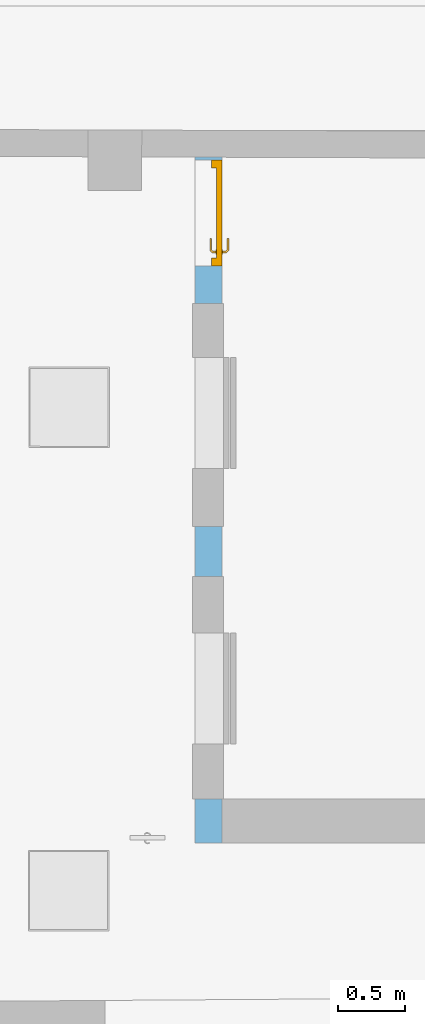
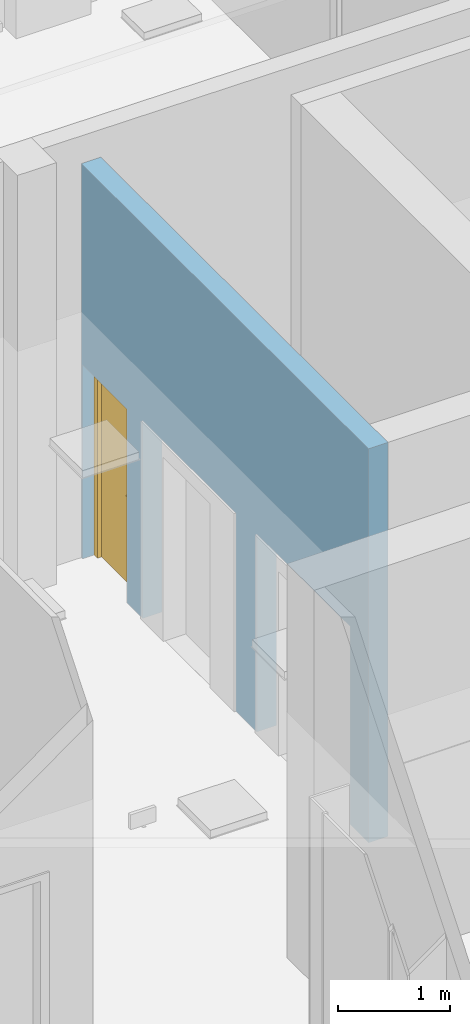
# One storey, part 45 of 128: 1 door, 3 openings, plus 1 element that does not belong to this part.
"""IFC2X3 building model written with IfcOpenShell, lengths in metres."""

from ifc_helpers import new_model, entity, si_unit, converted_unit, derived_unit, direction, frame, frame_2d, origin, origin_2d_with_axis, place, context, subcontext, project, spatial, polyline, rectangle, outline, extrude, faceted_brep, source, transform, mapped, material, layer, layer_set, layer_usage, type_object, type_shapes, element, fill, save


model = new_model("IFC2X3")

# Units and contexts
model_context = context("Model", 3, precision=1e-05, world=origin(), true_north=direction((6.123031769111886e-17, 1.0)))
body_context = subcontext(model_context, "Body", "Model", "MODEL_VIEW")
ifc_project = project(units=[si_unit("LENGTHUNIT", "METRE"), si_unit("AREAUNIT", "SQUARE_METRE"), converted_unit("PLANEANGLEUNIT", "DEGREE", entity("IfcPlaneAngleMeasure", 0.017453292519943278), si_unit("PLANEANGLEUNIT", "RADIAN"), dimensions=[0, 0, 0, 0, 0, 0, 0]), derived_unit("THERMALTRANSMITTANCEUNIT", [(si_unit("MASSUNIT", "GRAM", prefix="KILO"), 1), (si_unit("THERMODYNAMICTEMPERATUREUNIT", "KELVIN"), -1), (si_unit("TIMEUNIT", "SECOND"), -3)])], contexts=[model_context])

# Site, building, storey
site_placement = place(None, origin())
site = spatial("IfcSite", under=ifc_project, at=site_placement, Name="Default", CompositionType="ELEMENT")
building_placement = place(site_placement, origin())
building = spatial("IfcBuilding", under=site, at=building_placement, CompositionType="ELEMENT")
storey_placement = place(building_placement, origin())
storey = spatial("IfcBuildingStorey", under=building, at=storey_placement, Name="00_RDC CAF", CompositionType="ELEMENT", Elevation=2.4982504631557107e-13)

# Wall, openings, door
ifc_material_1 = material(Name="STR - Beton Mur")
ifc_layer = layer(ifc_material_1, 0.2)
ifc_layer_set = layer_set([ifc_layer], Name="Mur de base:M_Int_Beton_200mm")
ifc_layer_usage = layer_usage(ifc_layer_set, "AXIS2", "POSITIVE", -0.1)
wall_type = type_object("IfcWallType", Name="Mur de base:M_Int_Beton_200mm", PredefinedType="STANDARD", material=ifc_layer_set)
wall_placement = place(storey_placement, frame((28.445744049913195, 136.66346199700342, 0.0), z_axis=(0.0, 0.0, 1.0), x_axis=(0.0, -1.0, 0.0)))
wall = element("IfcWallStandardCase", 1, at=wall_placement, inside=storey, type_object=wall_type, material=ifc_layer_usage, Name="Mur de base:M_Int_Beton_200mm", ObjectType="Mur de base:M_Int_Beton_200mm", context=body_context, shape_type="SweptSolid", body=[
    extrude(outline(polyline([(0.0, -0.09999999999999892), (5.107940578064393, -0.09999999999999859), (5.107940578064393, 0.09999999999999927), (4.782940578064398, 0.09999999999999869), (0.0006955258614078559, 0.09999999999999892), (0.0, -0.09999999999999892)])), origin(), (0.0, 0.0, 1.0), 4.278),
])
opening_1_placement = place(wall_placement, frame((136.66346199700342, -28.445744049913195, 0.0), z_axis=(0.0, 0.0, 1.0), x_axis=(0.0, 1.0, 0.0)))
element("IfcOpeningElement", 2, at=opening_1_placement, cuts=wall, Name="Mur de base:M_Int_Beton_200mm", ObjectType="Opening", context=body_context, shape_type="SweptSolid", body=[
    extrude(rectangle(XDim=2.1600000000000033, YDim=1.660000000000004, at=origin_2d_with_axis()), frame((28.345744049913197, 134.7427850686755, 1.0699999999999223), z_axis=(1.0, 0.0, 0.0), x_axis=(0.0, 0.0, -1.0)), (0.0, 0.0, 1.0), 0.19999999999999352),
])
opening_2_placement = place(wall_placement, frame((136.66346199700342, -28.445744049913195, 0.0), z_axis=(0.0, 0.0, 1.0), x_axis=(0.0, 1.0, 0.0)))
element("IfcOpeningElement", 3, at=opening_2_placement, cuts=wall, Name="Mur de base:M_Int_Beton_200mm", ObjectType="Opening", context=body_context, shape_type="SweptSolid", body=[
    extrude(rectangle(XDim=2.1600000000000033, YDim=1.6600000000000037, at=frame_2d((0.0, -1.73749903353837e-14), x_axis=(1.0, 0.0))), frame((28.345744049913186, 132.7105214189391, 1.0699999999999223), z_axis=(1.0, 0.0, 0.0), x_axis=(0.0, 0.0, -1.0)), (0.0, 0.0, 1.0), 0.19999999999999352),
])
opening_3_placement = place(wall_placement, frame((0.021356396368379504, -0.10000000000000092, 0.0)))
opening_3 = element("IfcOpeningElement", 4, at=opening_3_placement, cuts=wall, Name="P_Tunnel_Simple:P_Int_Simple_Pleine_700x2060mm:1", ObjectType="Opening", context=body_context, shape_type="SweptSolid", body=[
    extrude(rectangle(XDim=2.104999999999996, YDim=0.7900000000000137, at=frame_2d((1.052499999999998, 0.39500000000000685), x_axis=(1.0, 0.0))), frame((0.0, 0.0, 0.0), z_axis=(0.0, 1.0, 0.0), x_axis=(0.0, 0.0, 1.0)), (0.0, 0.0, 1.0), 0.2),
])
ifc_material_2 = material(Name="ARC - M.In - Blanc")
door_style = type_object("IfcDoorStyle", Name="P_Tunnel_Simple:P_Int_Simple_Pleine_700x2060mm", ConstructionType="NOTDEFINED", OperationType="NOTDEFINED", ParameterTakesPrecedence=False, Sizeable=False, material=ifc_material_2)
shared_shape = source(origin(), body_context, "Body", "Brep", [
    faceted_brep([(1.1029747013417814, 0.04500000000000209, 1.0077804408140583), (1.0990000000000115, 0.045000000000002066, 1.0069999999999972), (1.0990000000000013, 0.045000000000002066, 0.9929999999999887), (1.1029747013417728, 0.04500000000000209, 0.9922195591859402), (1.107025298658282, 0.045000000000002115, 0.9922195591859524), (1.1110000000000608, 0.045000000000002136, 0.9930000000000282), (1.1110000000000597, 0.045000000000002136, 1.006999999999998), (1.1070252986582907, 0.045000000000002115, 1.0077804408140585), (1.1110000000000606, 0.06748520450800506, 0.9930000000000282), (1.1110000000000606, 0.06748520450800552, 1.006999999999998), (1.107025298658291, 0.06913157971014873, 1.0077804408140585), (1.1208389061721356, 0.08294518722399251, 1.0077804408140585), (1.1191610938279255, 0.08699578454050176, 1.0077804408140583), (1.1029747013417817, 0.070809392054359, 1.0077804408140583), (1.0990000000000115, 0.07245576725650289, 1.0069999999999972), (1.099000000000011, 0.07245576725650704, 0.9929999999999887), (1.1029747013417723, 0.07080939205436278, 0.9922195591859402), (1.1191610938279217, 0.08699578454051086, 0.9922195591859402), (1.1208389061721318, 0.08294518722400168, 0.9922195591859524), (1.1070252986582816, 0.06913157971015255, 0.9922195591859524), (1.1224852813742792, 0.07897048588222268, 0.9930000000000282), (1.1224852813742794, 0.07897048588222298, 1.006999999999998), (1.1175147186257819, 0.090970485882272, 1.0069999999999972), (1.1175147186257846, 0.09097048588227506, 0.9929999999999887), (1.2050457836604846, 0.07897048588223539, 0.9930000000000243), (1.2050457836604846, 0.08294518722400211, 0.9922195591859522), (1.2050457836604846, 0.0869957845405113, 0.99221955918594), (1.2050457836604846, 0.09097048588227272, 0.9929999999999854), (1.2050457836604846, 0.09097048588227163, 1.0069999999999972), (1.2050457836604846, 0.08699578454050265, 1.007780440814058), (1.2050457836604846, 0.08294518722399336, 1.0077804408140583), (1.2050457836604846, 0.07897048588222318, 1.0069999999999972), (1.1637655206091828, 0.0789704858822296, 0.9930000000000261), (1.1637655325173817, 0.07897048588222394, 1.0069999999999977), (1.162942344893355, 0.08497048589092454, 1.0078786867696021), (1.1574452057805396, 0.09097048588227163, 1.0069999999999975), (1.15744520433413, 0.09097048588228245, 0.9929999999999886), (1.1629423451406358, 0.08497048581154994, 0.9921213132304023)], [[[0, 1, 2, 3, 4, 5, 6, 7]], [[6, 5, 8, 9]], [[9, 10, 7, 6]], [[10, 11, 12, 13, 0, 7]], [[13, 14, 1, 0]], [[2, 1, 14, 15]], [[15, 16, 3, 2]], [[16, 17, 18, 19, 4, 3]], [[19, 8, 5, 4]], [[9, 8, 20, 21]], [[21, 11, 10, 9]], [[12, 22, 14, 13]], [[15, 14, 22, 23]], [[23, 17, 16, 15]], [[18, 20, 8, 19]], [[24, 25, 26, 27, 28, 29, 30, 31]], [[21, 20, 32, 24, 31, 33]], [[33, 30, 34]], [[35, 34, 29]], [[21, 33, 11]], [[33, 31, 30]], [[28, 35, 29]], [[22, 12, 35]], [[35, 12, 34]], [[12, 11, 34]], [[11, 33, 34]], [[29, 34, 30]], [[22, 35, 28, 27, 36, 23]], [[36, 26, 37]], [[27, 26, 36]], [[17, 23, 36]], [[37, 32, 18]], [[20, 18, 32]], [[32, 25, 24]], [[26, 25, 37]], [[25, 32, 37]], [[17, 36, 37]], [[17, 37, 18]]]),
    faceted_brep([(1.1029747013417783, -0.004999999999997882, 1.0077804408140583), (1.1070252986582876, -0.0049999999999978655, 1.0077804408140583), (1.111000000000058, -0.004999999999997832, 1.006999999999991), (1.111000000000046, -0.004999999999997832, 0.9930000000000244), (1.1070252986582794, -0.0049999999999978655, 0.9922195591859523), (1.1029747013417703, -0.004999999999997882, 0.9922195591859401), (1.0990000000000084, -0.004999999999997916, 0.9929999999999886), (1.0990000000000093, -0.004999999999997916, 1.0069999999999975), (1.0990000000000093, -0.03265095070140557, 1.0069999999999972), (1.1029747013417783, -0.031004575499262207, 1.0077804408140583), (1.1190235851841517, -0.04705345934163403, 1.0077804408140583), (1.1207013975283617, -0.04300286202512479, 1.0077804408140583), (1.1070252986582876, -0.029326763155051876, 1.0077804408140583), (1.11100000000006, -0.027680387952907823, 1.0069999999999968), (1.1110000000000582, -0.027680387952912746, 0.9930000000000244), (1.1070252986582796, -0.02932676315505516, 0.9922195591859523), (1.1207013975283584, -0.043002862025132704, 0.9922195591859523), (1.1190235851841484, -0.04705345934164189, 0.9922195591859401), (1.1029747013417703, -0.031004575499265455, 0.9922195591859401), (1.0990000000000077, -0.03265095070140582, 0.9929999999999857), (1.1173772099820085, -0.051028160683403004, 1.0069999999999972), (1.122347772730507, -0.039028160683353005, 1.0069999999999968), (1.122347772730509, -0.03902816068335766, 0.9930000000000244), (1.1173772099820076, -0.05102816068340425, 0.9929999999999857), (1.2050186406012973, -0.05102816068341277, 0.9929999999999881), (1.2050186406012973, -0.04705345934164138, 0.9922195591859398), (1.2050186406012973, -0.0430028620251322, 0.992219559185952), (1.2050186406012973, -0.039028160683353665, 0.9930000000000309), (1.2050186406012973, -0.03902816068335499, 1.0069999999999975), (1.2050186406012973, -0.043002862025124, 1.007780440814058), (1.2050186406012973, -0.047053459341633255, 1.0077804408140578), (1.2050186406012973, -0.051028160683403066, 1.0069999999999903), (1.1573076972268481, -0.051028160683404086, 1.0069999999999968), (1.1628600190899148, -0.045028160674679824, 1.007878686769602), (1.163683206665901, -0.0390281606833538, 1.0069999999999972), (1.1636832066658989, -0.039028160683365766, 0.9930000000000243), (1.1628600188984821, -0.045028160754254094, 0.9921213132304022), (1.1573077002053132, -0.05102816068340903, 0.992999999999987)], [[[0, 1, 2, 3, 4, 5, 6, 7]], [[8, 9, 0, 7]], [[9, 10, 11, 12, 1, 0]], [[12, 13, 2, 1]], [[3, 2, 13, 14]], [[14, 15, 4, 3]], [[15, 16, 17, 18, 5, 4]], [[18, 19, 6, 5]], [[7, 6, 19, 8]], [[20, 10, 9, 8]], [[11, 21, 13, 12]], [[14, 13, 21, 22]], [[22, 16, 15, 14]], [[17, 23, 19, 18]], [[8, 19, 23, 20]], [[24, 25, 26, 27, 28, 29, 30, 31]], [[32, 30, 33]], [[31, 30, 32]], [[10, 20, 32]], [[33, 34, 11]], [[21, 11, 34]], [[34, 29, 28]], [[30, 29, 33]], [[29, 34, 33]], [[10, 32, 33]], [[10, 33, 11]], [[22, 21, 34, 28, 27, 35]], [[35, 26, 36]], [[37, 36, 25]], [[22, 35, 16]], [[35, 27, 26]], [[24, 37, 25]], [[23, 17, 37]], [[37, 17, 36]], [[17, 16, 36]], [[16, 35, 36]], [[25, 36, 26]], [[20, 23, 37, 24, 31, 32]]]),
    faceted_brep([(1.115352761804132, 0.04000000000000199, 0.866003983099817), (1.1250000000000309, 0.04000000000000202, 0.8700000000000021), (1.1250000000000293, 0.04000000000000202, 1.0800000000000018), (1.1153527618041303, 0.04000000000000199, 1.083996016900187), (1.1050000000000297, 0.040000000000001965, 1.0853589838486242), (1.094647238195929, 0.04000000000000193, 1.0839960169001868), (1.08500000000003, 0.040000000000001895, 1.0800000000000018), (1.0850000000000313, 0.040000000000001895, 0.8700000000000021), (1.0946472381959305, 0.04000000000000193, 0.8660039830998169), (1.105000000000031, 0.040000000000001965, 0.8646410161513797), (1.1153527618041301, 0.045000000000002, 1.083996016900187), (1.1250000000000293, 0.04500000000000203, 1.0800000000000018), (1.1250000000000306, 0.04500000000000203, 0.8700000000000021), (1.115352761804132, 0.045000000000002, 0.866003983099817), (1.105000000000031, 0.04500000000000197, 0.8646410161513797), (1.0946472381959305, 0.045000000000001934, 0.8660039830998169), (1.0850000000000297, 0.0450000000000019, 0.870000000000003), (1.08500000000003, 0.0450000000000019, 1.0800000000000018), (1.094647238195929, 0.045000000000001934, 1.0839960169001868), (1.1050000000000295, 0.04500000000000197, 1.0853589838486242)], [[[0, 1, 2, 3, 4, 5, 6, 7, 8, 9]], [[10, 11, 12, 13, 14, 15, 16, 17, 18, 19]], [[11, 10, 3, 2]], [[3, 10, 19, 4]], [[19, 18, 5, 4]], [[18, 17, 6, 5]], [[7, 6, 17, 16]], [[16, 15, 8, 7]], [[8, 15, 14, 9]], [[14, 13, 0, 9]], [[13, 12, 1, 0]], [[2, 1, 12, 11]]]),
    faceted_brep([(1.115352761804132, -0.004999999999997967, 0.866003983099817), (1.1250000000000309, -0.00499999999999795, 0.8700000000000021), (1.1250000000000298, -0.00499999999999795, 1.0800000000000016), (1.1153527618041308, -0.004999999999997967, 1.0839960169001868), (1.1050000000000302, -0.004999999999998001, 1.0853589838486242), (1.0946472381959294, -0.004999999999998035, 1.083996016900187), (1.0850000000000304, -0.0049999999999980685, 1.0800000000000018), (1.0850000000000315, -0.0049999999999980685, 0.8700000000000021), (1.0946472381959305, -0.004999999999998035, 0.866003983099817), (1.105000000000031, -0.004999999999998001, 0.8646410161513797), (1.1153527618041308, 0.0, 1.0839960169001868), (1.1250000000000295, 0.0, 1.0800000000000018), (1.1250000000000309, 0.0, 0.8700000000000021), (1.115352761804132, 0.0, 0.866003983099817), (1.105000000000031, 0.0, 0.8646410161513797), (1.0946472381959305, 0.0, 0.866003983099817), (1.08500000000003, 0.0, 0.8700000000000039), (1.0850000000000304, 0.0, 1.0800000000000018), (1.0946472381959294, 0.0, 1.083996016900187), (1.1050000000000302, 0.0, 1.0853589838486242)], [[[0, 1, 2, 3, 4, 5, 6, 7, 8, 9]], [[10, 11, 12, 13, 14, 15, 16, 17, 18, 19]], [[16, 15, 8, 7]], [[8, 15, 14, 9]], [[14, 13, 0, 9]], [[13, 12, 1, 0]], [[2, 1, 12, 11]], [[11, 10, 3, 2]], [[3, 10, 19, 4]], [[19, 18, 5, 4]], [[18, 17, 6, 5]], [[7, 6, 17, 16]]]),
    faceted_brep([(1.0450000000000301, 0.04000000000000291, 2.06), (1.7450000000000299, 0.04000000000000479, 2.06), (1.7450000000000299, 0.04000000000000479, 0.0), (1.0450000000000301, 0.04000000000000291, 0.0), (1.7450000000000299, 0.0, 2.06), (1.7450000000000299, 0.0, 0.0), (1.0450000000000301, 0.0, 0.0), (1.0450000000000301, 0.0, 2.06)], [[[0, 1, 2, 3]], [[2, 1, 4, 5]], [[3, 2, 5, 6]], [[0, 3, 6, 7]], [[7, 6, 5, 4]], [[1, 0, 7, 4]]]),
    faceted_brep([(1.7900000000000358, 0.0800000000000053, 0.0), (1.790000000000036, 0.0, 0.0), (1.7450000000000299, 0.0, 0.0), (1.7450000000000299, 0.040000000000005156, 0.0), (1.7300000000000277, 0.04000000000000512, 0.0), (1.7300000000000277, 0.0800000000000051, 0.0), (1.7300000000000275, 0.0800000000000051, 2.044999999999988), (1.06000000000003, 0.08000000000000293, 2.044999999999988), (1.06000000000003, 0.08000000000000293, 0.0), (1.0, 0.08000000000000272, 0.0), (1.0, 0.08000000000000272, 2.104999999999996), (1.7900000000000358, 0.0800000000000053, 2.104999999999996), (1.730000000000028, 0.040000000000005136, 2.044999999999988), (1.7450000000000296, 0.040000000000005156, 2.05999999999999), (1.0450000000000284, 0.04000000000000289, 2.05999999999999), (1.0450000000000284, 0.04000000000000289, 0.0), (1.0600000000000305, 0.04000000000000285, 0.0), (1.0600000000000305, 0.04000000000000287, 2.044999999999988), (1.7450000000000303, 0.0, 2.05999999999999), (1.790000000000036, 0.0, 2.104999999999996), (1.0, 0.0, 2.104999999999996), (1.0, 0.0, 0.0), (1.0450000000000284, 0.0, 0.0), (1.0450000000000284, 0.0, 2.05999999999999)], [[[0, 1, 2, 3, 4, 5]], [[5, 6, 7, 8, 9, 10, 11, 0]], [[4, 12, 6, 5]], [[3, 13, 14, 15, 16, 17, 12, 4]], [[2, 18, 13, 3]], [[1, 19, 20, 21, 22, 23, 18, 2]], [[0, 11, 19, 1]], [[10, 9, 21, 20]], [[9, 8, 16, 15, 22, 21]], [[17, 16, 8, 7]], [[23, 22, 15, 14]], [[12, 17, 7, 6]], [[18, 23, 14, 13]], [[11, 10, 20, 19]]]),
])
type_shapes(door_style, [shared_shape])
door_placement = place(opening_3_placement, frame((1.7900000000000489, 0.1999999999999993, 0.0), z_axis=(0.0, 0.0, 1.0), x_axis=(-1.0, 0.0, 0.0)))
door = element("IfcDoor", 5, at=door_placement, inside=storey, type_object=door_style, material=ifc_material_2, Name="P_Tunnel_Simple:P_Int_Simple_Pleine_700x2060mm", ObjectType="P_Tunnel_Simple:P_Int_Simple_Pleine_700x2060mm", OverallHeight=2.104999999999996, OverallWidth=0.790000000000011, context=body_context, shape_type="MappedRepresentation", body=[
    mapped(shared_shape, transform((0.0, 0.0, 0.0), scale=1.0)),
])
fill(opening_3, door)

save(model, "model.ifc")
